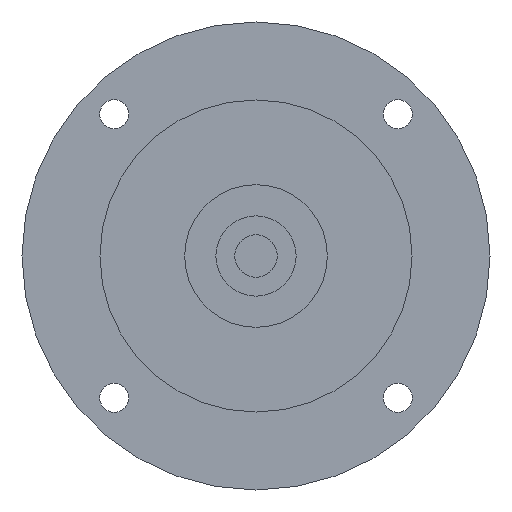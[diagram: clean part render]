
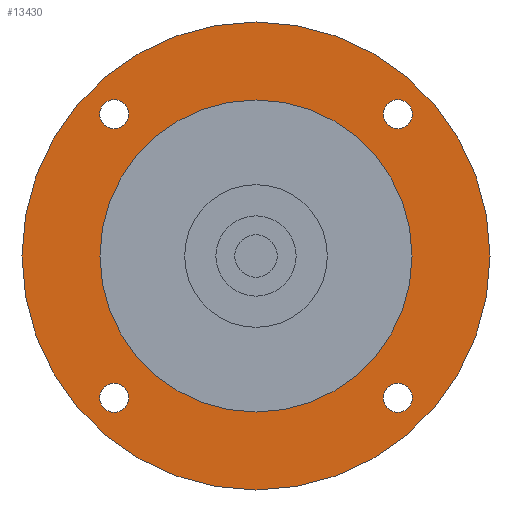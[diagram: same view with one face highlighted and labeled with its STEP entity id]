
A CAD part, left-side view. The second image highlights one B-rep face of the part: STEP entity #13430.
In plain terms, the highlighted planar face has unit normal (-1, 0, 0) as drawn and (0, 0, -1) by its records, which use the part's own axes.
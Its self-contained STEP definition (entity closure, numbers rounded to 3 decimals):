
#12270=CARTESIAN_POINT('',(-31.82,-28.57,-42.2));
#12280=VERTEX_POINT('',#12270);
#12310=CARTESIAN_POINT('',(-31.82,-31.82,-42.2));
#12320=DIRECTION('',(0.,0.,-1.));
#12330=DIRECTION('',(0.,-1.,0.));
#12340=AXIS2_PLACEMENT_3D('',#12310,#12320,#12330);
#12350=CIRCLE('',#12340,3.25);
#12360=CARTESIAN_POINT('',(-31.82,-35.07,-42.2));
#12370=VERTEX_POINT('',#12360);
#12380=EDGE_CURVE('',#12370,#12280,#12350,.T.);
#12500=CARTESIAN_POINT('',(0.,0.,
-42.2));
#12510=DIRECTION('',(0.,0.,-1.));
#12520=DIRECTION('',(1.,0.,0.));
#12530=AXIS2_PLACEMENT_3D('',#12500,#12510,#12520);
#12540=PLANE('',#12530);
#12550=CARTESIAN_POINT('',(31.82,-31.82,-42.2));
#12560=DIRECTION('',(0.,0.,-1.));
#12570=DIRECTION('',(1.,0.,0.));
#12580=AXIS2_PLACEMENT_3D('',#12550,#12560,#12570);
#12590=CIRCLE('',#12580,3.25);
#12600=CARTESIAN_POINT('',(35.07,-31.82,-42.2));
#12610=VERTEX_POINT('',#12600);
#12620=CARTESIAN_POINT('',(28.57,-31.82,-42.2));
#12630=VERTEX_POINT('',#12620);
#12640=EDGE_CURVE('',#12610,#12630,#12590,.T.);
#12650=ORIENTED_EDGE('',*,*,#12640,.F.);
#12660=EDGE_CURVE('',#12630,#12610,#12590,.T.);
#12670=ORIENTED_EDGE('',*,*,#12660,.F.);
#12680=EDGE_LOOP('',(#12670,#12650));
#12690=FACE_BOUND('',#12680,.T.);
#12700=CARTESIAN_POINT('',(0.,0.,
-42.2));
#12710=DIRECTION('',(0.,0.,-1.));
#12720=DIRECTION('',(0.,-1.,0.));
#12730=AXIS2_PLACEMENT_3D('',#12700,#12710,#12720);
#12740=CIRCLE('',#12730,52.5);
#12750=CARTESIAN_POINT('',(-52.5,0.,-42.2));
#12760=VERTEX_POINT('',#12750);
#12770=CARTESIAN_POINT('',(52.5,0.,-42.2));
#12780=VERTEX_POINT('',#12770);
#12790=EDGE_CURVE('',#12760,#12780,#12740,.T.);
#12800=ORIENTED_EDGE('',*,*,#12790,.T.);
#12810=CARTESIAN_POINT('',(0.,-52.5,-42.2));
#12820=VERTEX_POINT('',#12810);
#12830=EDGE_CURVE('',#12820,#12760,#12740,.T.);
#12840=ORIENTED_EDGE('',*,*,#12830,.T.);
#12850=EDGE_CURVE('',#12780,#12820,#12740,.T.);
#12860=ORIENTED_EDGE('',*,*,#12850,.T.);
#12870=EDGE_LOOP('',(#12860,#12840,#12800));
#12880=FACE_OUTER_BOUND('',#12870,.T.);
#12890=CARTESIAN_POINT('',(31.82,31.82,-42.2));
#12900=DIRECTION('',(0.,0.,-1.));
#12910=DIRECTION('',(0.,1.,0.));
#12920=AXIS2_PLACEMENT_3D('',#12890,#12900,#12910);
#12930=CIRCLE('',#12920,3.25);
#12940=CARTESIAN_POINT('',(31.82,35.07,-42.2));
#12950=VERTEX_POINT('',#12940);
#12960=CARTESIAN_POINT('',(31.82,28.57,-42.2));
#12970=VERTEX_POINT('',#12960);
#12980=EDGE_CURVE('',#12950,#12970,#12930,.T.);
#12990=ORIENTED_EDGE('',*,*,#12980,.F.);
#13000=EDGE_CURVE('',#12970,#12950,#12930,.T.);
#13010=ORIENTED_EDGE('',*,*,#13000,.F.);
#13020=EDGE_LOOP('',(#13010,#12990));
#13030=FACE_BOUND('',#13020,.T.);
#13040=CARTESIAN_POINT('',(-31.82,31.82,-42.2));
#13050=DIRECTION('',(0.,0.,-1.));
#13060=DIRECTION('',(-1.,0.,0.));
#13070=AXIS2_PLACEMENT_3D('',#13040,#13050,#13060);
#13080=CIRCLE('',#13070,3.25);
#13090=CARTESIAN_POINT('',(-35.07,31.82,-42.2));
#13100=VERTEX_POINT('',#13090);
#13110=CARTESIAN_POINT('',(-28.57,31.82,-42.2));
#13120=VERTEX_POINT('',#13110);
#13130=EDGE_CURVE('',#13100,#13120,#13080,.T.);
#13140=ORIENTED_EDGE('',*,*,#13130,.F.);
#13150=EDGE_CURVE('',#13120,#13100,#13080,.T.);
#13160=ORIENTED_EDGE('',*,*,#13150,.F.);
#13170=EDGE_LOOP('',(#13160,#13140));
#13180=FACE_BOUND('',#13170,.T.);
#13190=ORIENTED_EDGE('',*,*,#12380,.F.);
#13200=EDGE_CURVE('',#12280,#12370,#12350,.T.);
#13210=ORIENTED_EDGE('',*,*,#13200,.F.);
#13220=EDGE_LOOP('',(#13210,#13190));
#13230=FACE_BOUND('',#13220,.T.);
#13240=CARTESIAN_POINT('',(0.,0.,
-42.2));
#13250=DIRECTION('',(0.,0.,1.));
#13260=DIRECTION('',(0.,1.,0.));
#13270=AXIS2_PLACEMENT_3D('',#13240,#13250,#13260);
#13280=CIRCLE('',#13270,35.);
#13290=CARTESIAN_POINT('',(-35.,0.,-42.2));
#13300=VERTEX_POINT('',#13290);
#13310=CARTESIAN_POINT('',(35.,0.,-42.2));
#13320=VERTEX_POINT('',#13310);
#13330=EDGE_CURVE('',#13300,#13320,#13280,.T.);
#13340=ORIENTED_EDGE('',*,*,#13330,.T.);
#13350=CARTESIAN_POINT('',(0.,35.,-42.2));
#13360=VERTEX_POINT('',#13350);
#13370=EDGE_CURVE('',#13360,#13300,#13280,.T.);
#13380=ORIENTED_EDGE('',*,*,#13370,.T.);
#13390=EDGE_CURVE('',#13320,#13360,#13280,.T.);
#13400=ORIENTED_EDGE('',*,*,#13390,.T.);
#13410=EDGE_LOOP('',(#13400,#13380,#13340));
#13420=FACE_BOUND('',#13410,.T.);
#13430=ADVANCED_FACE('',(#12690,#12880,#13030,#13180,#13230,#13420),
#12540,.T.);
